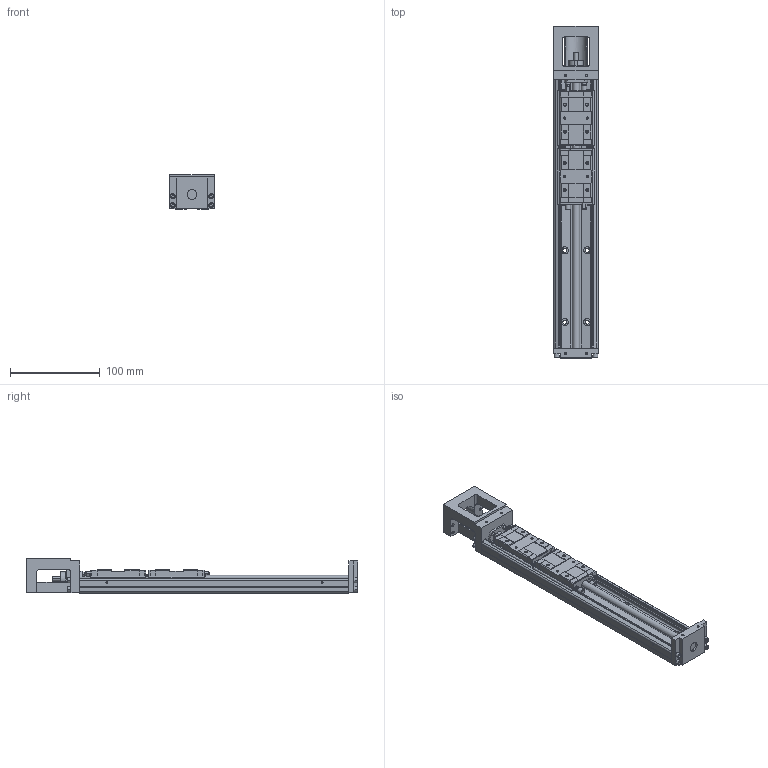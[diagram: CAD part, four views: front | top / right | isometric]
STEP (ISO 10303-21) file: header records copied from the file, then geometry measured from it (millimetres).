
FILE_DESCRIPTION(('no description'),'unknown implementation level');
FILE_NAME('KK5002P300A2F0000_FILE_24.stp',' ',('HIWIN GmbH'),('CADClick - KiM GmbH - www.kimweb.de'),'unknown preprocess','ACIS','unknown authorization');
FILE_SCHEMA(('automotive_design'));
Length unit declared in the file: millimetre
Products named in the file (3): KK5002P300A2F0000_FILE_1; KK50_FILE; KK5002P300A2F0000_FILE
Bounding box: 50 x 370 x 38.5 mm (x, y, z)
Volume: 298450.6 mm3; surface area: 99285.5 mm2
Topology: 3 solids, 15 shells, 961 faces, 2486 edges, 1569 vertices
Faces by surface type: plane 570, cylinder 261, cone 78, torus 52
Entity records: 57687 total; most frequent: CARTESIAN_POINT 6003, DIRECTION 5086, STYLED_ITEM 4973, PRESENTATION_STYLE_ASSIGNMENT 4973, COLOUR_RGB 4973, ORIENTED_EDGE 4880, EDGE_CURVE 2440, CURVE_STYLE 2440
